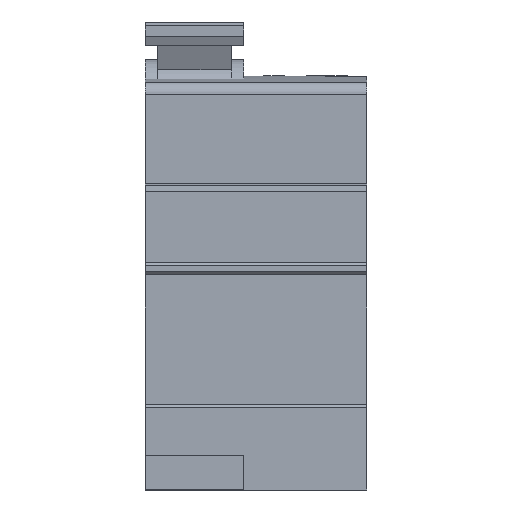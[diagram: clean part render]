
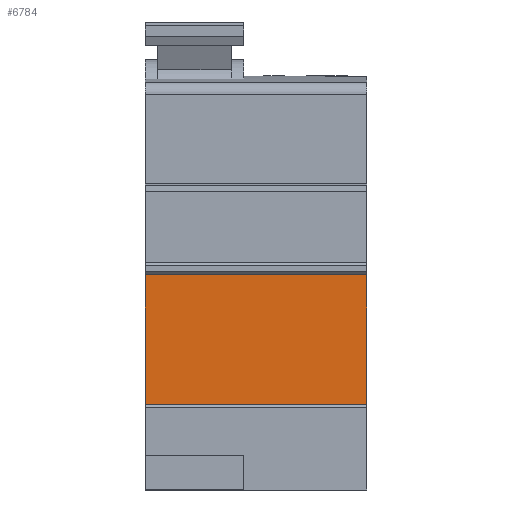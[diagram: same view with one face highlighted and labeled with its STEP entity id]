
A CAD part, front view. The second image highlights one B-rep face of the part: STEP entity #6784.
In plain terms, the highlighted planar face has unit normal (0, -1, 0).
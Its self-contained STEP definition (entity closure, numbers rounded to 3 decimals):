
#306=LINE('',#9447,#902);
#586=LINE('',#11907,#1182);
#644=LINE('',#12027,#1240);
#645=LINE('',#12029,#1241);
#902=VECTOR('',#7662,10.);
#1182=VECTOR('',#8574,10.);
#1240=VECTOR('',#8660,10.);
#1241=VECTOR('',#8663,10.);
#1604=PLANE('',#7325);
#2060=FACE_OUTER_BOUND('',#2526,.T.);
#2526=EDGE_LOOP('',(#5756,#5757,#5758,#5759));
#2979=VERTEX_POINT('',#9444);
#2980=VERTEX_POINT('',#9446);
#3345=VERTEX_POINT('',#11904);
#3346=VERTEX_POINT('',#11906);
#3640=EDGE_CURVE('',#2979,#2980,#306,.T.);
#4172=EDGE_CURVE('',#3346,#3345,#586,.T.);
#4233=EDGE_CURVE('',#3345,#2980,#644,.T.);
#4234=EDGE_CURVE('',#3346,#2979,#645,.T.);
#5756=ORIENTED_EDGE('',*,*,#4172,.T.);
#5757=ORIENTED_EDGE('',*,*,#4233,.T.);
#5758=ORIENTED_EDGE('',*,*,#3640,.F.);
#5759=ORIENTED_EDGE('',*,*,#4234,.F.);
#6784=ADVANCED_FACE('',(#2060),#1604,.T.);
#7325=AXIS2_PLACEMENT_3D('',#12028,#8661,#8662);
#7662=DIRECTION('',(0.,0.,-1.));
#8574=DIRECTION('',(0.,0.,-1.));
#8660=DIRECTION('',(1.,0.,0.));
#8661=DIRECTION('center_axis',(0.,-1.,0.));
#8662=DIRECTION('ref_axis',(0.,0.,-1.));
#8663=DIRECTION('',(1.,0.,0.));
#9444=CARTESIAN_POINT('',(36.,-45.241,5.4));
#9446=CARTESIAN_POINT('',(36.,-45.241,-15.712));
#9447=CARTESIAN_POINT('',(36.,-45.241,5.4));
#11904=CARTESIAN_POINT('',(0.,-45.241,-15.712));
#11906=CARTESIAN_POINT('',(0.,-45.241,5.4));
#11907=CARTESIAN_POINT('',(0.,-45.241,5.4));
#12027=CARTESIAN_POINT('',(0.,-45.241,-15.712));
#12028=CARTESIAN_POINT('Origin',(0.,-45.241,5.4));
#12029=CARTESIAN_POINT('',(0.,-45.241,5.4));
